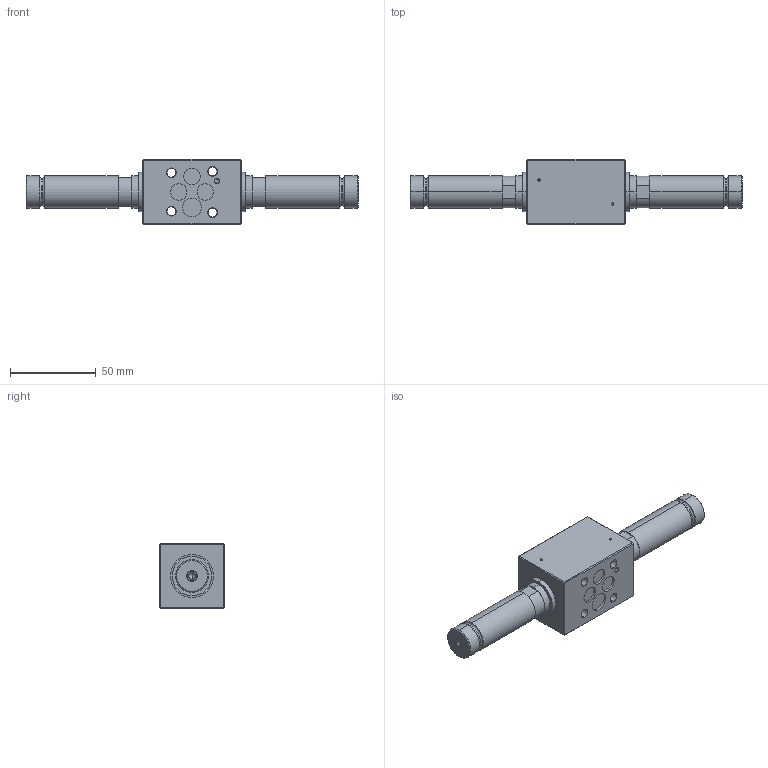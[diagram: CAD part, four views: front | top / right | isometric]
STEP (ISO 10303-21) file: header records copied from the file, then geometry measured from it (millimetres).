
FILE_DESCRIPTION (( 'STEP AP203' ), '1' );
FILE_NAME ('WDMFB04-4_3.step', '2013-07-08T06:39:33', ( 'Wandfluh AG' ), ( 'Wandfluh AG' ), 'SwSTEP 2.0', 'SolidWorks 2012', '' );
FILE_SCHEMA (( 'CONFIG_CONTROL_DESIGN' ));
Length unit declared in the file: millimetre
Products named in the file (1): WDMFB04-4_3
Bounding box: 193.6 x 38 x 38 mm (x, y, z)
Volume: 115293.6 mm3; surface area: 32011.7 mm2
Topology: 9 solids, 9 shells, 1132 faces, 3077 edges, 2003 vertices
Faces by surface type: plane 703, cylinder 312, cone 58, torus 36, bspline 23
Entity records: 36822 total; most frequent: CARTESIAN_POINT 7282, DIRECTION 6381, ORIENTED_EDGE 6134, EDGE_CURVE 3067, AXIS2_PLACEMENT_3D 2242, VERTEX_POINT 2003, LINE 1897, VECTOR 1897
